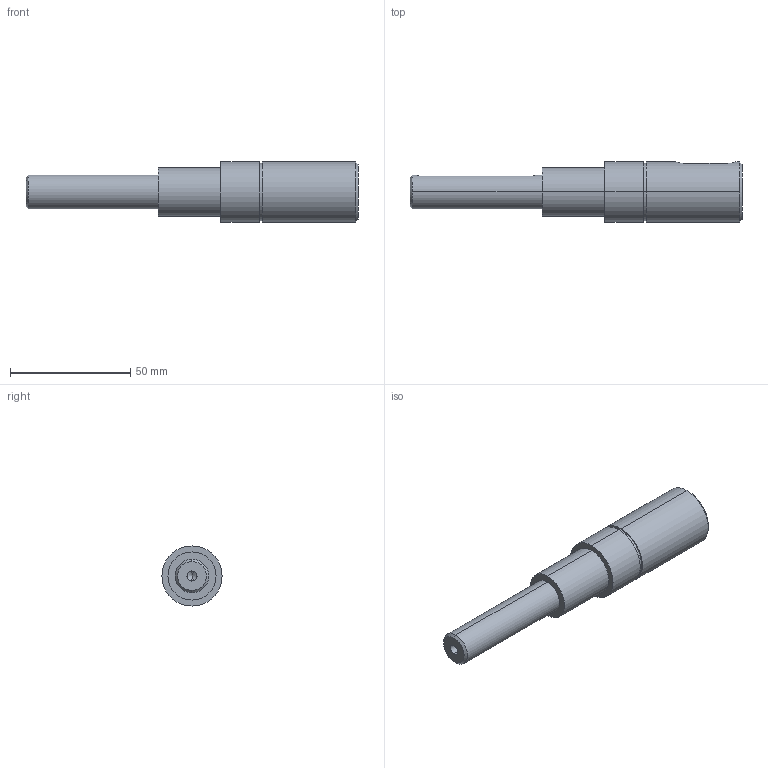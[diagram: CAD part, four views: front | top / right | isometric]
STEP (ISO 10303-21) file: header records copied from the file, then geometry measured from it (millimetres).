
FILE_DESCRIPTION (( 'STEP AP203' ), '1' );
FILE_NAME ('084.813.006.STEP', '2013-01-29T13:19:44', ( 'Alusic' ), ( 'Alusic' ), 'SwSTEP 2.0', 'SolidWorks 2011', '' );
FILE_SCHEMA (( 'CONFIG_CONTROL_DESIGN' ));
Length unit declared in the file: millimetre
Products named in the file (1): 084.813.006
Bounding box: 138 x 25 x 25 mm (x, y, z)
Volume: 42951.1 mm3; surface area: 10120.5 mm2
Topology: 1 solids, 1 shells, 34 faces, 72 edges, 45 vertices
Faces by surface type: cylinder 16, plane 12, cone 6
Entity records: 1103 total; most frequent: CARTESIAN_POINT 278, DIRECTION 168, ORIENTED_EDGE 140, EDGE_CURVE 70, AXIS2_PLACEMENT_3D 67, VERTEX_POINT 45, EDGE_LOOP 41, ADVANCED_FACE 34
